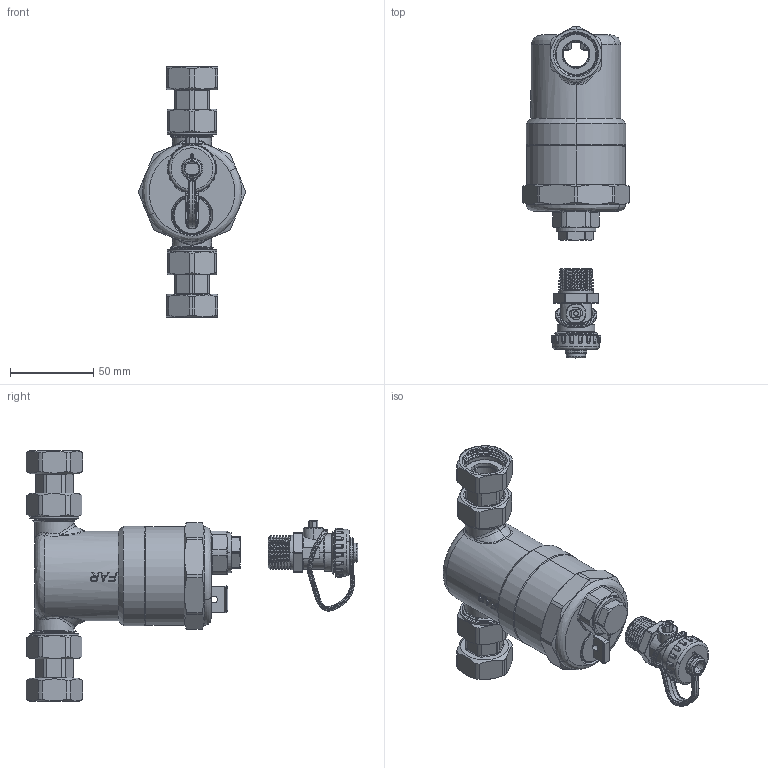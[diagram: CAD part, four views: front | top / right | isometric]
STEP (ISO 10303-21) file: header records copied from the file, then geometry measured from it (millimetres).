
FILE_DESCRIPTION (( 'STEP AP214' ), '1' );
FILE_NAME ('7774020.STEP', '2022-05-09T12:57:42', ( '' ), ( '' ), 'SwSTEP 2.0', 'SolidWorks 2021', '' );
FILE_SCHEMA (( 'AUTOMOTIVE_DESIGN' ));
Length unit declared in the file: millimetre
Products named in the file (19): 3820asb; 3439 12A; 1637trmB_bianco; 8350 172; 1787trmB_bianca; 099stg; 581mnm_F_cromato; 227lem; 8350 4445; 7774020; 542mnm_cromato; 3439 12T; 381stp; 5112asb; 3439 12B; 017lme; 547trm_cromato; 1742trm_cromato; 4627asbA
Assembly tree (21 placements, depth 3):
  7774020
    3439 12T
      3439 12B
      3439 12A
    1637trmB_bianco
    4627asbA
      227lem
      581mnm_F_cromato
    8350 4445
    1787trmB_bianca
    3820asb
      542mnm_cromato
      8350 172
    381stp  x2
    5112asb  x2
      1742trm_cromato
      547trm_cromato
      017lme
      099stg
Bounding box: 64 x 199.25 x 150.15 mm (x, y, z)
Volume: 135295.5 mm3; surface area: 103061.3 mm2
Topology: 23 solids, 23 shells, 1604 faces, 4106 edges, 2565 vertices
Faces by surface type: bspline 709, cylinder 479, plane 239, cone 177
Entity records: 104394 total; most frequent: CARTESIAN_POINT 74909, ORIENTED_EDGE 7214, DIRECTION 4128, EDGE_CURVE 3607, VERTEX_POINT 2257, B_SPLINE_CURVE_WITH_KNOTS 1716, AXIS2_PLACEMENT_3D 1594, EDGE_LOOP 1462
